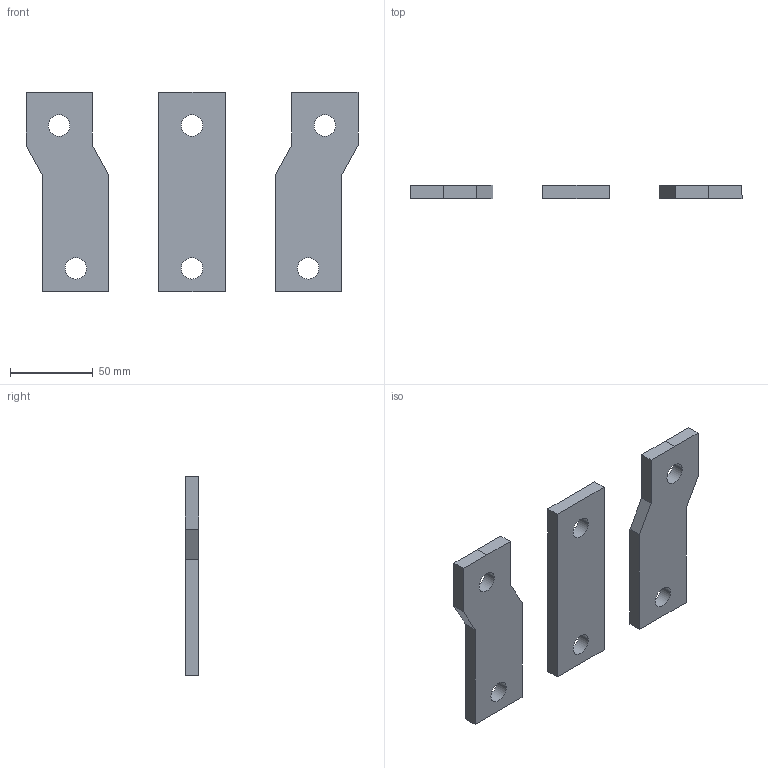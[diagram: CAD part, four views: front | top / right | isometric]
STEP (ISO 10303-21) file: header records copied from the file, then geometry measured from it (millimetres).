
FILE_DESCRIPTION (( 'STEP AP214' ), '1' );
FILE_NAME ('TGM1N-GP-800-3P.STEP', '2025-12-29T11:41:34', ( '' ), ( '' ), 'SwSTEP 2.0', 'SolidWorks 2024', '' );
FILE_SCHEMA (( 'AUTOMOTIVE_DESIGN' ));
Length unit declared in the file: millimetre
Products named in the file (7): TGM1NE-GP-630s-800-3P.stp; TGM1NE-GP-630s-8001-3P; TGM1NE-GP-630s-800-3P(straight); 630S-800ZHIPAI_1_3.stp; TGM1N-GP-800-3P; 630S-800ZHIPAI_1_2.stp; TGM1NE-GP-630s-800-3P(straight).stp
Assembly tree (7 placements, depth 4):
  TGM1N-GP-800-3P
    TGM1NE-GP-630s-800-3P.stp
      630S-800ZHIPAI_1_3.stp
    TGM1NE-GP-630s-800-3P(straight)
      TGM1NE-GP-630s-800-3P(straight).stp
        630S-800ZHIPAI_1_2.stp
    TGM1NE-GP-630s-8001-3P
      TGM1NE-GP-630s-800-3P.stp
        630S-800ZHIPAI_1_3.stp
Bounding box: 200 x 8 x 120 mm (x, y, z)
Volume: 108828.9 mm3; surface area: 36929.7 mm2
Topology: 3 solids, 3 shells, 40 faces, 102 edges, 68 vertices
Faces by surface type: plane 28, cylinder 12
Entity records: 969 total; most frequent: DIRECTION 157, CARTESIAN_POINT 144, ORIENTED_EDGE 126, EDGE_CURVE 63, AXIS2_PLACEMENT_3D 55, VECTOR 47, LINE 47, VERTEX_POINT 42
